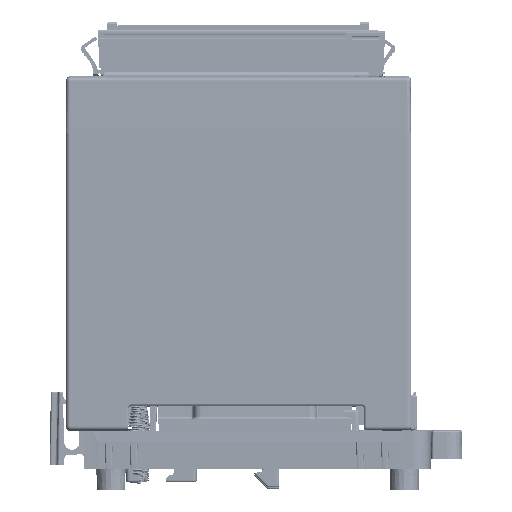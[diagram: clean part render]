
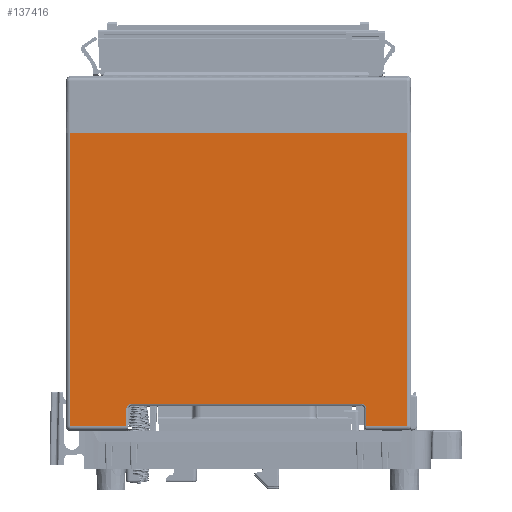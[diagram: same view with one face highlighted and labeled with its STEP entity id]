
A CAD part, left-side view. The second image highlights one B-rep face of the part: STEP entity #137416.
In plain terms, the highlighted planar face has unit normal (-1, 0, 0) as drawn and (0, 0, 1) by its records, which use the part's own axes.
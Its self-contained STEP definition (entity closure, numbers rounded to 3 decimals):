
#115697=DIRECTION('',(0.,-1.,0.));
#115698=VECTOR('',#115697,76.5);
#115699=CARTESIAN_POINT('',(-44.,38.75,1.));
#115700=LINE('',#115699,#115698);
#123725=DIRECTION('',(0.,1.,0.));
#123726=VECTOR('',#123725,76.5);
#123727=CARTESIAN_POINT('',(44.,-37.75,1.));
#123728=LINE('',#123727,#123726);
#123732=CARTESIAN_POINT('',(33.3,-33.333,
1.));
#123733=CARTESIAN_POINT('',(33.297,-33.165,
1.));
#123734=CARTESIAN_POINT('',(33.248,-32.852,
1.));
#123735=CARTESIAN_POINT('',(33.029,-32.432,
1.));
#123736=CARTESIAN_POINT('',(32.7,-32.103,
1.));
#123737=CARTESIAN_POINT('',(32.28,-31.885,
1.));
#123738=CARTESIAN_POINT('',(31.967,-31.835,1.));
#123739=CARTESIAN_POINT('',(31.8,-31.832,1.));
#123744=CARTESIAN_POINT('',(-27.8,-31.832,
1.));
#123745=CARTESIAN_POINT('',(-27.967,-31.835,
1.));
#123746=CARTESIAN_POINT('',(-28.281,-31.885,
1.));
#123747=CARTESIAN_POINT('',(-28.701,-32.103,
1.));
#123748=CARTESIAN_POINT('',(-29.03,-32.433,
1.));
#123749=CARTESIAN_POINT('',(-29.248,-32.853,
1.));
#123750=CARTESIAN_POINT('',(-29.297,-33.166,1.));
#123751=CARTESIAN_POINT('',(-29.3,-33.333,1.));
#123756=DIRECTION('',(1.,0.,0.));
#123757=VECTOR('',#123756,88.);
#123758=CARTESIAN_POINT('',(-44.,38.75,1.));
#123759=LINE('',#123758,#123757);
#123786=DIRECTION('',(0.,-1.,0.));
#123787=VECTOR('',#123786,4.417);
#123788=CARTESIAN_POINT('',(33.3,-33.333,
1.));
#123789=LINE('',#123788,#123787);
#123841=DIRECTION('',(1.,0.,0.));
#123842=VECTOR('',#123841,10.7);
#123843=CARTESIAN_POINT('',(33.3,-37.75,1.));
#123844=LINE('',#123843,#123842);
#123919=DIRECTION('',(1.,0.,0.));
#123920=VECTOR('',#123919,59.6);
#123921=CARTESIAN_POINT('',(-27.8,-31.832,
1.));
#123922=LINE('',#123921,#123920);
#124015=DIRECTION('',(0.,1.,0.));
#124016=VECTOR('',#124015,4.417);
#124017=CARTESIAN_POINT('',(-29.3,-37.75,1.));
#124018=LINE('',#124017,#124016);
#124641=DIRECTION('',(1.,0.,0.));
#124642=VECTOR('',#124641,14.7);
#124643=CARTESIAN_POINT('',(-44.,-37.75,1.));
#124644=LINE('',#124643,#124642);
#129270=CARTESIAN_POINT('',(-44.,-37.75,1.));
#129271=VERTEX_POINT('',#129270);
#129274=CARTESIAN_POINT('',(-44.,38.75,1.));
#129276=VERTEX_POINT('',#129274);
#129286=CARTESIAN_POINT('',(44.,38.75,1.));
#129287=VERTEX_POINT('',#129286);
#130727=CARTESIAN_POINT('',(44.,-37.75,1.));
#130728=VERTEX_POINT('',#130727);
#130729=CARTESIAN_POINT('',(33.3,-33.333,
1.));
#130730=CARTESIAN_POINT('',(33.3,-37.75,1.));
#130731=VERTEX_POINT('',#130729);
#130732=VERTEX_POINT('',#130730);
#130733=VERTEX_POINT('',#123739);
#130734=CARTESIAN_POINT('',(-27.8,-31.832,
1.));
#130735=VERTEX_POINT('',#130734);
#130736=VERTEX_POINT('',#123751);
#130737=CARTESIAN_POINT('',(-29.3,-37.75,1.));
#130738=VERTEX_POINT('',#130737);
#137392=CARTESIAN_POINT('',(0.,0.5,1.));
#137393=DIRECTION('',(0.,0.,1.));
#137394=DIRECTION('',(1.,0.,0.));
#137395=AXIS2_PLACEMENT_3D('',#137392,#137393,#137394);
#137396=PLANE('',#137395);
#137398=ORIENTED_EDGE('',*,*,#137397,.F.);
#137400=ORIENTED_EDGE('',*,*,#137399,.T.);
#137402=ORIENTED_EDGE('',*,*,#137401,.F.);
#137404=ORIENTED_EDGE('',*,*,#137403,.T.);
#137406=ORIENTED_EDGE('',*,*,#137405,.F.);
#137408=ORIENTED_EDGE('',*,*,#137407,.F.);
#137409=ORIENTED_EDGE('',*,*,#131473,.F.);
#137410=ORIENTED_EDGE('',*,*,#131496,.T.);
#137411=ORIENTED_EDGE('',*,*,#137386,.F.);
#137413=ORIENTED_EDGE('',*,*,#137412,.F.);
#137414=EDGE_LOOP('',(#137398,#137400,#137402,#137404,#137406,#137408,#137409,
#137410,#137411,#137413));
#137415=FACE_OUTER_BOUND('',#137414,.F.);
#123740=B_SPLINE_CURVE_WITH_KNOTS('',3,(#123732,#123733,#123734,#123735,#123736,
#123737,#123738,#123739),.UNSPECIFIED.,.F.,.F.,(4,1,1,1,1,4),(0.,0.2,0.4,
0.6,0.8,1.),.UNSPECIFIED.);
#123752=B_SPLINE_CURVE_WITH_KNOTS('',3,(#123744,#123745,#123746,#123747,#123748,
#123749,#123750,#123751),.UNSPECIFIED.,.F.,.F.,(4,1,1,1,1,4),(0.,0.2,0.4,
0.6,0.8,1.),.UNSPECIFIED.);
#131473=EDGE_CURVE('',#129276,#129271,#115700,.T.);
#131496=EDGE_CURVE('',#129276,#129287,#123759,.T.);
#137386=EDGE_CURVE('',#130728,#129287,#123728,.T.);
#137397=EDGE_CURVE('',#130731,#130732,#123789,.T.);
#137399=EDGE_CURVE('',#130731,#130733,#123740,.T.);
#137401=EDGE_CURVE('',#130735,#130733,#123922,.T.);
#137403=EDGE_CURVE('',#130735,#130736,#123752,.T.);
#137405=EDGE_CURVE('',#130738,#130736,#124018,.T.);
#137407=EDGE_CURVE('',#129271,#130738,#124644,.T.);
#137412=EDGE_CURVE('',#130732,#130728,#123844,.T.);
#137416=ADVANCED_FACE('',(#137415),#137396,.T.);
